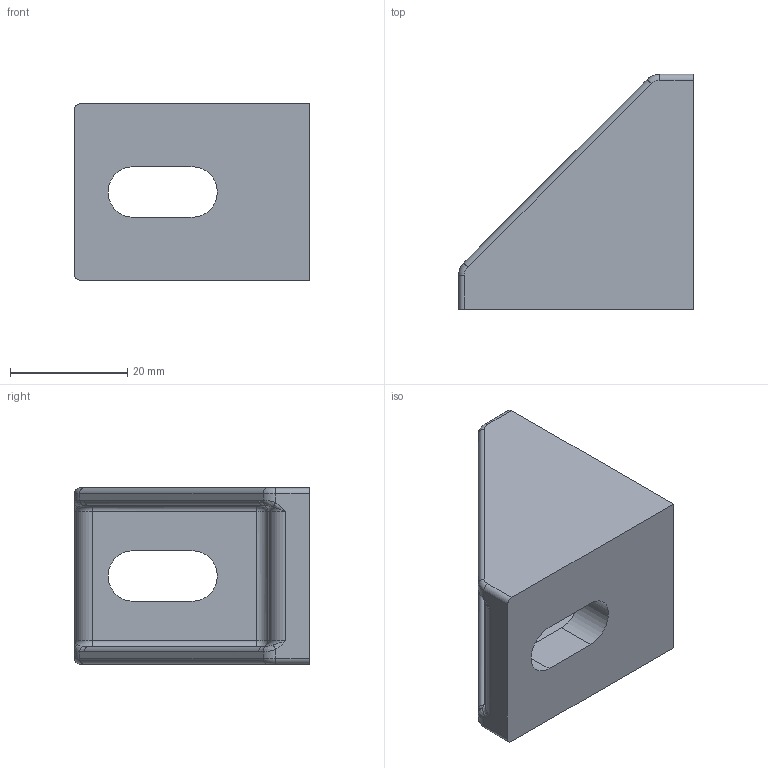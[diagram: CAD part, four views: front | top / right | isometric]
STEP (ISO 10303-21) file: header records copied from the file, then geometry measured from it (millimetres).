
FILE_DESCRIPTION (( 'STEP AP203' ), '1' );
FILE_NAME ('WT3040-8.STEP', '2024-02-19T06:25:43', ( '' ), ( '' ), 'SwSTEP 2.0', 'SolidWorks 2022', '' );
FILE_SCHEMA (( 'CONFIG_CONTROL_DESIGN' ));
Length unit declared in the file: millimetre
Products named in the file (1): WT3040-8
Bounding box: 40 x 40 x 30 mm (x, y, z)
Volume: 16487 mm3; surface area: 7736.9 mm2
Topology: 1 solids, 1 shells, 63 faces, 151 edges, 86 vertices
Faces by surface type: cylinder 23, plane 18, bspline 13, torus 9
Entity records: 2596 total; most frequent: CARTESIAN_POINT 1175, ORIENTED_EDGE 294, DIRECTION 253, EDGE_CURVE 147, AXIS2_PLACEMENT_3D 95, VERTEX_POINT 86, EDGE_LOOP 67, VECTOR 63
